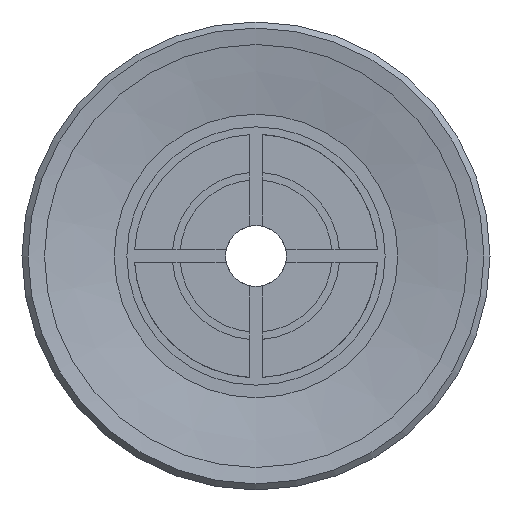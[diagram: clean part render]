
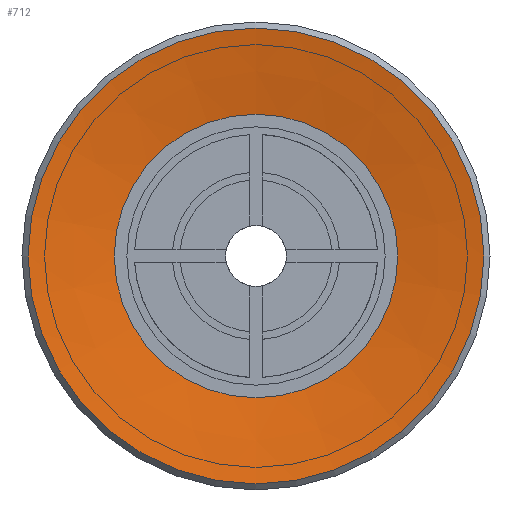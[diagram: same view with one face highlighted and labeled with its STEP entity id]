
A CAD part, front view. The second image highlights one B-rep face of the part: STEP entity #712.
In plain terms, the highlighted conical face has half-angle 80 degrees and reference radius 4.664 mm.
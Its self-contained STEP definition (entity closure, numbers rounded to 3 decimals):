
#712=ADVANCED_FACE('',(#1094,#1095),#1096,.F.);
#1094=FACE_BOUND('',#1550,.T.);
#1095=FACE_OUTER_BOUND('',#1551,.T.);
#1096=CONICAL_SURFACE('',#1552,4.664,1.396);
#1550=EDGE_LOOP('',(#2550));
#1551=EDGE_LOOP('',(#2551));
#1552=AXIS2_PLACEMENT_3D('',#2552,#2553,#2554);
#2550=ORIENTED_EDGE('',*,*,#3168,.F.);
#2551=ORIENTED_EDGE('',*,*,#3169,.T.);
#2552=CARTESIAN_POINT('',(0.0,0.5,0.0));
#2553=DIRECTION('',(-0.0,-1.0,0.));
#2554=DIRECTION('',(0.0,0.,-1.0));
#3168=EDGE_CURVE('',#3691,#3691,#3692,.T.);
#3169=EDGE_CURVE('',#3693,#3693,#3694,.T.);
#3691=VERTEX_POINT('',#4547);
#3692=CIRCLE('',#4548,4.664);
#3693=VERTEX_POINT('',#4549);
#3694=CIRCLE('',#4550,7.5);
#4547=CARTESIAN_POINT('',(0.0,0.5,-4.664));
#4548=AXIS2_PLACEMENT_3D('',#5174,#5175,#5176);
#4549=CARTESIAN_POINT('',(0.0,0.,-7.5));
#4550=AXIS2_PLACEMENT_3D('',#5177,#5178,#5179);
#5174=CARTESIAN_POINT('',(0.0,0.5,0.0));
#5175=DIRECTION('',(0.0,-1.0,0.));
#5176=DIRECTION('',(0.0,0.,-1.0));
#5177=CARTESIAN_POINT('',(0.0,0.0,0.0));
#5178=DIRECTION('',(0.0,-1.0,0.));
#5179=DIRECTION('',(0.0,0.,-1.0));
